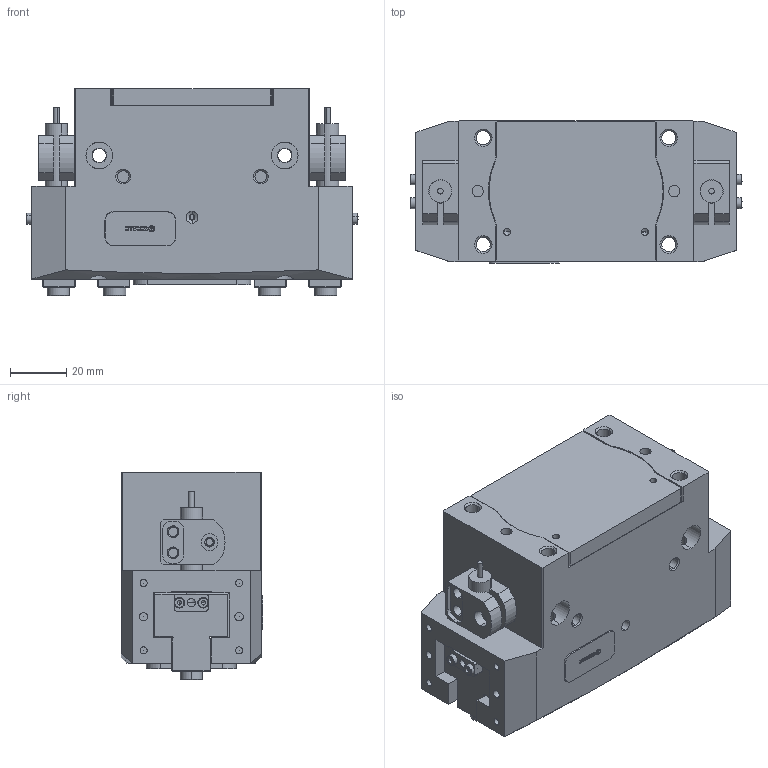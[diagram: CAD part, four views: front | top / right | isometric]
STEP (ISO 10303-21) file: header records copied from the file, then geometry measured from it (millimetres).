
FILE_DESCRIPTION (( 'STEP AP214' ), '1' );
FILE_NAME ('TR46-114-L.STEP', '2026-07-20T08:03:12', ( '' ), ( '' ), 'SwSTEP 2.0', 'SolidWorks 2023', '' );
FILE_SCHEMA (( 'AUTOMOTIVE_DESIGN' ));
Length unit declared in the file: millimetre
Products named in the file (16): TR46-114L-ÊıÄ£.sldasm-Part-15; TR46-114L-ÊıÄ£.sldasm-Part-2; Ô²ÖùÍ·(GB_FASTENER_SCREWS_HSHCS M2X8-N); TR46-114L-ÊıÄ£.sldasm-Part-10; TR46-114-L-1; TR46-114L-ÊıÄ£.sldasm-Part-3; TR46-114L-ÊıÄ£.sldasm-Part-13; TR46-114L-ÊıÄ£.sldasm-Part-7; Ñ¹¿é×°ÅäÌå-3; TR46-114L-ÊıÄ£.sldasm-Part-14; TR46-114-L; 25x12-R3; Ñ¹¿éÊıÄ£.sldasm-Part-9; TR46-114L-ÊıÄ£.sldasm-Part-18; Ñ¹¿é×°ÅäÌå-4; TR46-114L-µ×¸Ç°å
Assembly tree (23 placements, depth 3):
  TR46-114-L
    TR46-114-L-1
      TR46-114L-ÊıÄ£.sldasm-Part-2
      TR46-114L-ÊıÄ£.sldasm-Part-7
      TR46-114L-ÊıÄ£.sldasm-Part-10
      TR46-114L-ÊıÄ£.sldasm-Part-13
      TR46-114L-ÊıÄ£.sldasm-Part-15
      TR46-114L-ÊıÄ£.sldasm-Part-18  x2
      TR46-114L-µ×¸Ç°å
    Ñ¹¿é×°ÅäÌå-3
      Ñ¹¿éÊıÄ£.sldasm-Part-9
      Ô²ÖùÍ·(GB_FASTENER_SCREWS_HSHCS M2X8-N)  x2
    Ñ¹¿é×°ÅäÌå-4
      Ñ¹¿éÊıÄ£.sldasm-Part-9
      Ô²ÖùÍ·(GB_FASTENER_SCREWS_HSHCS M2X8-N)  x2
    25x12-R3
    TR46-114L-ÊıÄ£.sldasm-Part-14  x4
    TR46-114L-ÊıÄ£.sldasm-Part-3
Bounding box: 118.2 x 50.5 x 74 mm (x, y, z)
Volume: 321553.4 mm3; surface area: 82280.3 mm2
Topology: 20 solids, 48 shells, 1437 faces, 3641 edges, 2332 vertices
Faces by surface type: plane 725, cylinder 357, cone 180, bspline 167, torus 8
Entity records: 42552 total; most frequent: CARTESIAN_POINT 13691, ORIENTED_EDGE 6046, DIRECTION 5474, EDGE_CURVE 3023, VERTEX_POINT 1982, LINE 1920, VECTOR 1920, AXIS2_PLACEMENT_3D 1777
